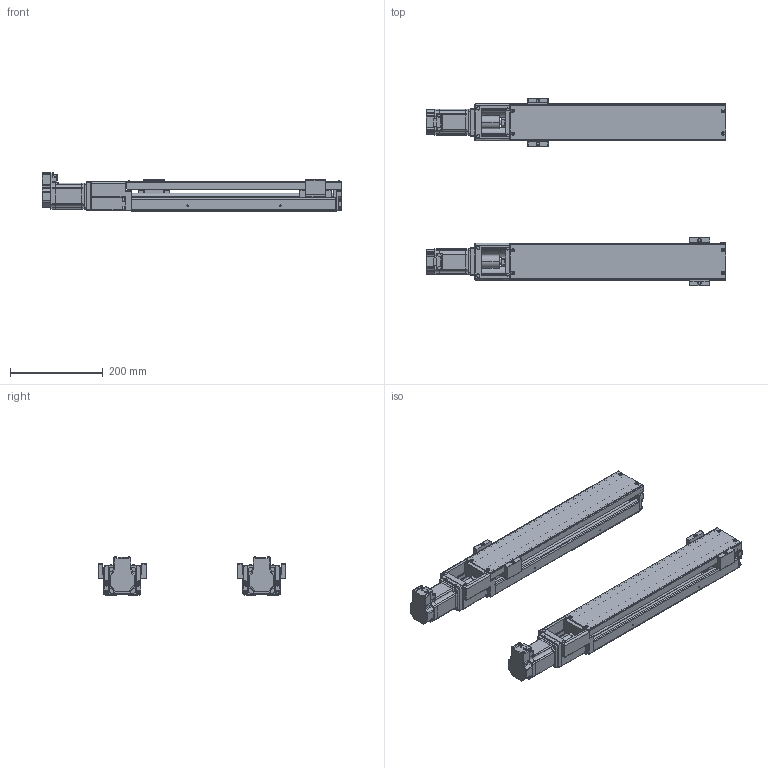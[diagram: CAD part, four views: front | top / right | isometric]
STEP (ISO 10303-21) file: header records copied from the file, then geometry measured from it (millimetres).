
FILE_DESCRIPTION(('STEP AP214'),'1');
FILE_NAME('D:\仕事\図面\SCKR6\tmp0.STEP',' ',(' '),(' '),'XStep 1.0',' ',' ');
FILE_SCHEMA(('automotive_design'));
Length unit declared in the file: millimetre
Bounding box: 645.01 x 404 x 82.36 mm (x, y, z)
Volume: 3179859.6 mm3; surface area: 821282.4 mm2
Topology: 116 solids, 116 shells, 4118 faces, 10120 edges, 6226 vertices
Faces by surface type: cylinder 1752, plane 1352, torus 704, bspline 186, cone 92, sphere 32
Entity records: 169163 total; most frequent: CARTESIAN_POINT 33272, DIRECTION 22970, ORIENTED_EDGE 20112, EDGE_CURVE 10056, AXIS2_PLACEMENT_3D 9028, VERTEX_POINT 6226, LINE 4914, VECTOR 4914
